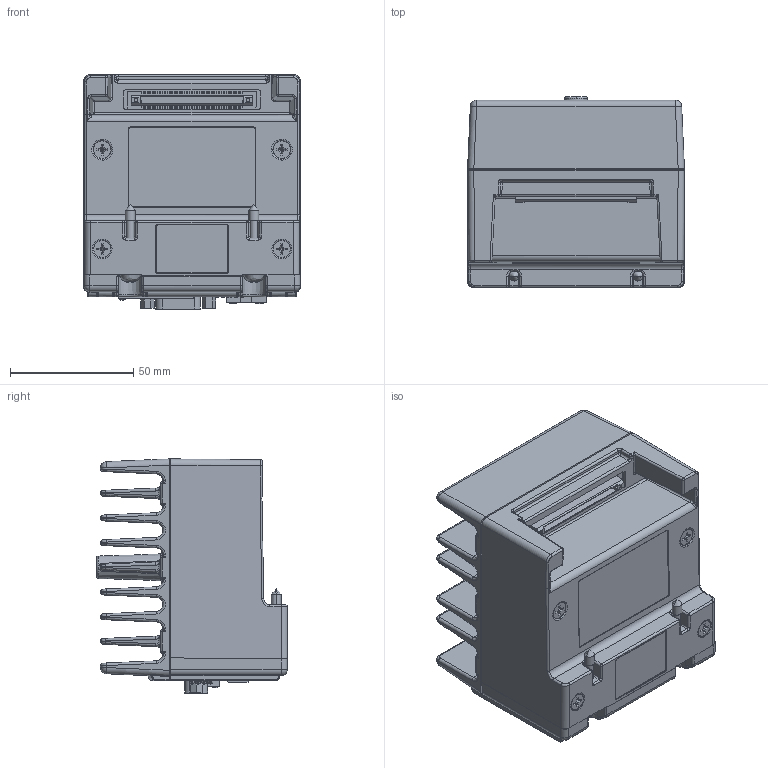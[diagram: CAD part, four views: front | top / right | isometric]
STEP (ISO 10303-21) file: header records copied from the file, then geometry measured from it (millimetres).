
FILE_DESCRIPTION((''),'2;1');
FILE_NAME('CU_CRIO_CONT_900X','2007-08-02T',('jpearson'),(''),'PRO/ENGINEER BY PARAMETRIC TECHNOLOGY CORPORATION, 2006080','PRO/ENGINEER BY PARAMETRIC TECHNOLOGY CORPORATION, 2006080','');
FILE_SCHEMA(('CONFIG_CONTROL_DESIGN'));
Products named in the file (1): CU_CRIO_CONT_900X
Bounding box: 88.11 x 77.55 x 95.17 mm (x, y, z)
Volume: 156290.9 mm3; surface area: 114943.6 mm2
Topology: 7 solids, 7 shells, 2871 faces, 7106 edges, 4282 vertices
Faces by surface type: plane 1348, cylinder 728, bspline 519, sphere 104, cone 90, torus 82
Entity records: 114853 total; most frequent: CARTESIAN_POINT 50878, ORIENTED_EDGE 13996, DIRECTION 12017, EDGE_CURVE 6998, VERTEX_POINT 4396, VECTOR 4157, LINE 4157, AXIS2_PLACEMENT_3D 3930
